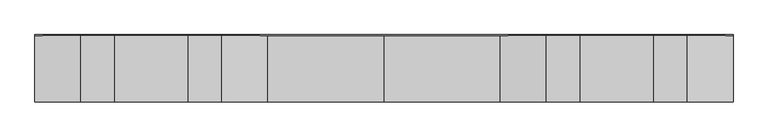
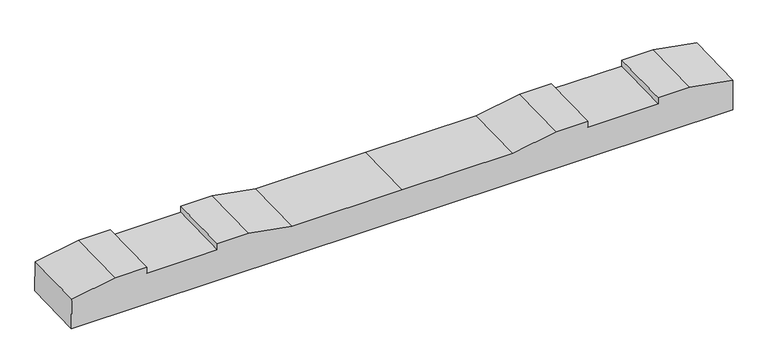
"""IFC4 building model written with IfcOpenShell, lengths in millimetres: proxy geometry, 轨枕-立面角度 : 轨枕-立面角度."""

from ifc_helpers import new_model, si_unit, frame, origin, place, context, project, spatial, polyline, outline, extrude, source, transform, mapped, element, save


def generic_models_1f48964c(model_context):
    return source(origin(), model_context, "Body", "SweptSolid", [
        extrude(outline(polyline([(0.0, 0.0), (2099.7669328, 0.0), (2099.7669328, -100.020689), (1961.8834664, -124.5), (1861.8834664, -124.5), (1861.8834664, -104.5), (1637.8834664, -104.5), (1637.8834664, -124.5), (1537.8834664, -124.5), (1399.8834664, -100.0), (1049.8834664, -100.0), (699.8834664, -100.0), (561.8834664, -124.5), (461.8834664, -124.5), (461.8834664, -104.5), (237.8834664, -104.5), (237.8834664, -124.5), (137.8834664, -124.5), (0.0, -100.020689), (0.0, 0.0)])), frame((-1049.8834664, -97.4216808, -106.9077458), z_axis=(0.0, 0.9997025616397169, 0.024388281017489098), x_axis=(1.0, 0.0, 0.0)), (0.0, 0.0, 1.0), 200.0),
    ])


if __name__ == "__main__":
    model = new_model("IFC4")
    model_context = context("Model", 3, world=origin())
    ifc_project = project(units=[si_unit("LENGTHUNIT", "METRE", prefix="MILLI")], contexts=[model_context])
    site = spatial("IfcSite", under=ifc_project)
    building = spatial("IfcBuilding", under=site)
    placement = place(None, origin())
    generic_models_shape = generic_models_1f48964c(model_context)
    element("IfcBuildingElementProxy", 1, Name="轨枕-立面角度 : 轨枕-立面角度", ObjectType="轨枕-立面角度 : 轨枕-立面角度", at=placement, inside=building, context=model_context, shape_type="MappedRepresentation", body=[
        mapped(generic_models_shape, transform((0.0, 0.0, 0.0), x_axis=(1.0, 0.0, 0.0), y_axis=(0.0, 1.0, 0.0), z_axis=(0.0, 0.0, 1.0))),
    ])
    save(model, "model.ifc")
